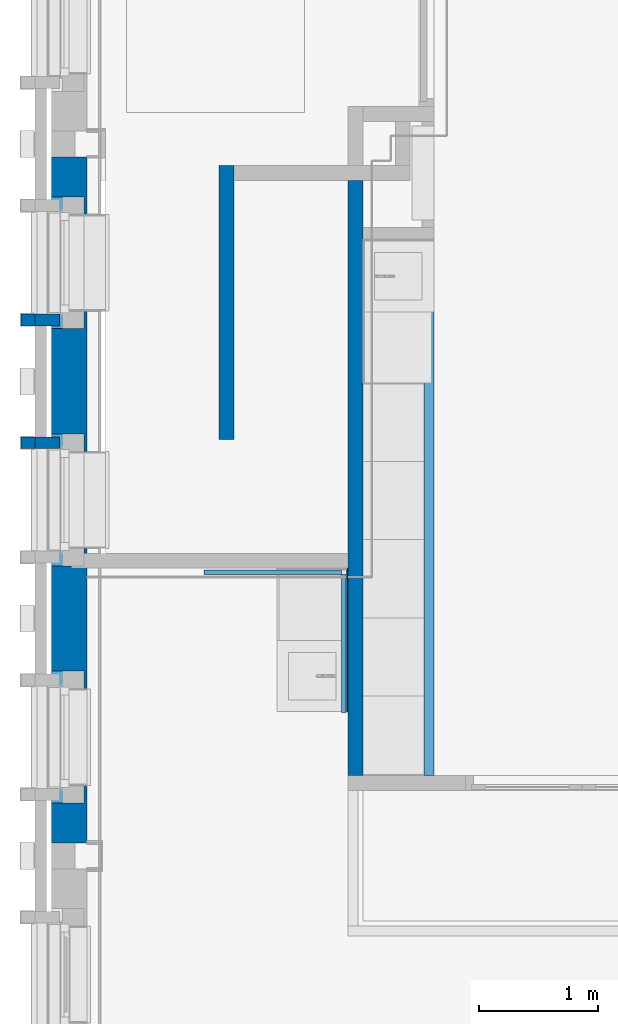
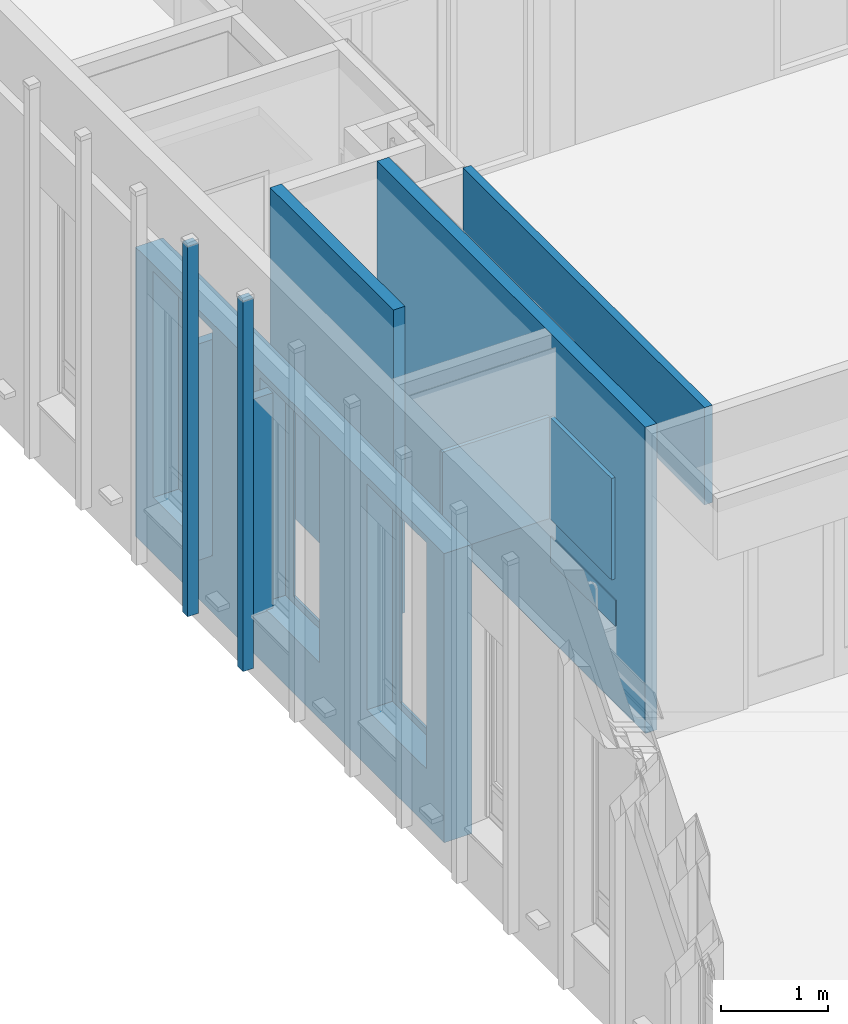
# One storey, part 35 of 118: 11 walls, 11 openings.
"""IFC2X3 building model written with IfcOpenShell, lengths in millimetres."""

from ifc_helpers import new_model, entity, si_unit, converted_unit, derived_unit, direction, frame, frame_2d, origin, place, context, subcontext, project, spatial, rectangle, extrude, faceted_brep, material, layer, layer_set, layer_usage, type_object, element, save


model = new_model("IFC2X3")

# Units and contexts
model_context = context("Model", 3, precision=0.01, world=origin(), true_north=direction((6.123031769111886e-17, 1.0)))
plan_context = context("Plan", 3, precision=0.01, world=origin(), true_north=direction((6.123031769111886e-17, 1.0)))
body_context = subcontext(model_context, "Body", "Model", "MODEL_VIEW")
ifc_project = project(units=[si_unit("LENGTHUNIT", "METRE", prefix="MILLI"), si_unit("AREAUNIT", "SQUARE_METRE"), si_unit("VOLUMEUNIT", "CUBIC_METRE"), converted_unit("PLANEANGLEUNIT", "DEGREE", entity("IfcRatioMeasure", 0.017453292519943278), si_unit("PLANEANGLEUNIT", "RADIAN"), dimensions=[0, 0, 0, 0, 0, 0, 0]), si_unit("MASSUNIT", "GRAM", prefix="KILO"), derived_unit("MASSDENSITYUNIT", [(si_unit("MASSUNIT", "GRAM", prefix="KILO"), 1), (si_unit("LENGTHUNIT", "METRE"), -3)]), derived_unit("IONCONCENTRATIONUNIT", [(si_unit("MASSUNIT", "GRAM", prefix="KILO"), 1), (si_unit("LENGTHUNIT", "METRE"), -3)]), derived_unit("MOMENTOFINERTIAUNIT", [(si_unit("LENGTHUNIT", "METRE"), 4)]), si_unit("TIMEUNIT", "SECOND"), si_unit("FREQUENCYUNIT", "HERTZ"), si_unit("THERMODYNAMICTEMPERATUREUNIT", "DEGREE_CELSIUS"), derived_unit("THERMALTRANSMITTANCEUNIT", [(si_unit("MASSUNIT", "GRAM", prefix="KILO"), 1), (si_unit("THERMODYNAMICTEMPERATUREUNIT", "KELVIN"), -1), (si_unit("TIMEUNIT", "SECOND"), -3)]), derived_unit("THERMALCONDUCTANCEUNIT", [(si_unit("MASSUNIT", "GRAM", prefix="KILO"), 1), (si_unit("THERMODYNAMICTEMPERATUREUNIT", "KELVIN"), -1), (si_unit("TIMEUNIT", "SECOND"), -3), (si_unit("LENGTHUNIT", "METRE"), 1)]), derived_unit("VOLUMETRICFLOWRATEUNIT", [(si_unit("LENGTHUNIT", "METRE"), 3), (si_unit("TIMEUNIT", "SECOND"), -1)]), derived_unit("MASSFLOWRATEUNIT", [(si_unit("MASSUNIT", "GRAM", prefix="KILO"), 1), (si_unit("TIMEUNIT", "SECOND"), -1)]), derived_unit("ROTATIONALFREQUENCYUNIT", [(si_unit("TIMEUNIT", "SECOND"), -1)]), si_unit("ELECTRICCURRENTUNIT", "AMPERE"), si_unit("ELECTRICVOLTAGEUNIT", "VOLT"), si_unit("POWERUNIT", "WATT"), si_unit("FORCEUNIT", "NEWTON", prefix="KILO"), si_unit("ILLUMINANCEUNIT", "LUX"), si_unit("LUMINOUSFLUXUNIT", "LUMEN"), si_unit("LUMINOUSINTENSITYUNIT", "CANDELA"), derived_unit("USERDEFINED", [(si_unit("MASSUNIT", "GRAM", prefix="KILO"), -1), (si_unit("LENGTHUNIT", "METRE"), -2), (si_unit("TIMEUNIT", "SECOND"), 3), (si_unit("LUMINOUSFLUXUNIT", "LUMEN"), 1)]), derived_unit("USERDEFINED", [(si_unit("MASSUNIT", "GRAM", prefix="KILO"), 1), (si_unit("TIMEUNIT", "SECOND"), -3), (si_unit("LENGTHUNIT", "METRE"), 3), (si_unit("ELECTRICCURRENTUNIT", "AMPERE"), -2)]), derived_unit("SOUNDPOWERUNIT", [(si_unit("MASSUNIT", "GRAM", prefix="KILO"), 1), (si_unit("TIMEUNIT", "SECOND"), -3), (si_unit("LENGTHUNIT", "METRE"), 2)]), derived_unit("SOUNDPRESSUREUNIT", [(si_unit("MASSUNIT", "GRAM", prefix="KILO"), 1), (si_unit("LENGTHUNIT", "METRE"), -1), (si_unit("TIMEUNIT", "SECOND"), -2)]), derived_unit("LINEARVELOCITYUNIT", [(si_unit("LENGTHUNIT", "METRE"), 1), (si_unit("TIMEUNIT", "SECOND"), -1)]), si_unit("PRESSUREUNIT", "PASCAL"), derived_unit("USERDEFINED", [(si_unit("MASSUNIT", "GRAM", prefix="KILO"), 1), (si_unit("LENGTHUNIT", "METRE"), -2), (si_unit("TIMEUNIT", "SECOND"), -2)]), derived_unit("LINEARFORCEUNIT", [(si_unit("MASSUNIT", "GRAM", prefix="KILO"), 1), (si_unit("TIMEUNIT", "SECOND"), -2)]), derived_unit("PLANARFORCEUNIT", [(si_unit("MASSUNIT", "GRAM", prefix="KILO"), 1), (si_unit("LENGTHUNIT", "METRE"), -1), (si_unit("TIMEUNIT", "SECOND"), -2)]), derived_unit("SPECIFICHEATCAPACITYUNIT", [(si_unit("THERMODYNAMICTEMPERATUREUNIT", "KELVIN"), -1), (si_unit("LENGTHUNIT", "METRE"), 2), (si_unit("TIMEUNIT", "SECOND"), -2)]), derived_unit("HEATINGVALUEUNIT", [(si_unit("LENGTHUNIT", "METRE"), 2), (si_unit("TIMEUNIT", "SECOND"), -2)]), derived_unit("VAPORPERMEABILITYUNIT", [(si_unit("LENGTHUNIT", "METRE"), -1), (si_unit("TIMEUNIT", "SECOND"), 1)]), derived_unit("DYNAMICVISCOSITYUNIT", [(si_unit("MASSUNIT", "GRAM", prefix="KILO"), 1), (si_unit("TIMEUNIT", "SECOND"), -1), (si_unit("LENGTHUNIT", "METRE"), -1)]), derived_unit("THERMALEXPANSIONCOEFFICIENTUNIT", [(si_unit("THERMODYNAMICTEMPERATUREUNIT", "KELVIN"), -1)]), derived_unit("MODULUSOFELASTICITYUNIT", [(si_unit("MASSUNIT", "GRAM", prefix="KILO"), 1), (si_unit("LENGTHUNIT", "METRE"), -1), (si_unit("TIMEUNIT", "SECOND"), -2)]), derived_unit("ISOTHERMALMOISTURECAPACITYUNIT", [(si_unit("LENGTHUNIT", "METRE"), 3), (si_unit("MASSUNIT", "GRAM", prefix="KILO"), -1)]), derived_unit("MOISTUREDIFFUSIVITYUNIT", [(si_unit("TIMEUNIT", "SECOND"), -1), (si_unit("LENGTHUNIT", "METRE"), 2)])], contexts=[model_context, plan_context])

# Site, building, storey
site_placement = place(None, origin())
site = spatial("IfcSite", under=ifc_project, at=site_placement, Name="Locatie", CompositionType="ELEMENT")
building_placement = place(site_placement, origin())
building = spatial("IfcBuilding", under=site, at=building_placement, Name="Bouwwerk", CompositionType="ELEMENT")
storey_placement = place(building_placement, frame((0.0, 0.0, 7800.0)))
storey = spatial("IfcBuildingStorey", under=building, at=storey_placement, Name="02 tweede verdieping", CompositionType="ELEMENT", Elevation=7800.000000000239)

# Wall, openings
ifc_material_1 = material(Name="n7_isolatie_glaswol")
ifc_layer_1 = layer(ifc_material_1, 30.0)
ifc_layer_2 = layer(ifc_material_1, 245.0)
ifc_material_2 = material(Name="i4_multiplex")
ifc_layer_3 = layer(ifc_material_2, 12.0)
ifc_material_3 = material(Name="f7_gipsvezel")
ifc_layer_4 = layer(ifc_material_3, 13.000000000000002)
ifc_layer_set_1 = layer_set([ifc_layer_1, ifc_layer_2, ifc_layer_3, ifc_layer_4], Name="Basic Wall:NLRS_22_WA_HSB bispouw 30-245-12-13 glaswol_gen_ISR")
ifc_layer_usage_1 = layer_usage(ifc_layer_set_1, "AXIS2", "NEGATIVE", 150.0)
wall_type_1 = type_object("IfcWallType", Name="Basic Wall:NLRS_22_WA_HSB bispouw 30-245-12-13 glaswol_gen_ISR", PredefinedType="STANDARD", material=ifc_layer_set_1)
wall_1_placement = place(storey_placement, frame((9850.0, 17309.244513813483, -30.0), z_axis=(0.0, 0.0, 1.0), x_axis=(0.0, 1.0, 0.0)))
wall_1 = element("IfcWallStandardCase", 1, at=wall_1_placement, inside=storey, type_object=wall_type_1, material=ifc_layer_usage_1, Name="Basic Wall:NLRS_22_WA_HSB bispouw 30-245-12-13 glaswol_gen_ISR", ObjectType="Basic Wall:NLRS_22_WA_HSB bispouw 30-245-12-13 glaswol_gen_ISR", context=body_context, shape_type="SweptSolid", body=[
    extrude(rectangle(XDim=5780.755486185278, YDim=300.0000000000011, at=frame_2d((2890.377743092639, 0.0), x_axis=(-1.0, 0.0))), origin(), (0.0, 0.0, 1.0), 3305.0000000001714),
])
opening_1_placement = place(wall_1_placement, frame((-5665.244513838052, 290.0, 633.0)))
element("IfcOpeningElement", 2, at=opening_1_placement, cuts=wall_1, Name="Basic Wall:NLRS_22_WA_HSB bispouw 30-245-12-13 glaswol_gen_ISR", ObjectType="Opening", context=body_context, shape_type="Brep", body=[
    faceted_brep([(1088.0, -100.0, 2472.0), (1009.0, -100.0, 2472.0), (1009.0, -100.0, 42.0), (103.0, -100.0, 42.0), (103.0, -100.0, 2472.0), (24.0, -100.0, 2472.0), (24.0, -100.0, 0.0), (1088.0, -100.0, 0.0), (24.0, 0.0, 2472.0), (1088.0, 0.0, 2472.0), (1088.0, 0.0, 0.0), (24.0, 0.0, 0.0), (0.0, -415.0, 2594.0), (0.0, -415.0, 11.0), (1112.0, -415.0, 11.0), (1112.0, -415.0, 2594.0), (148.0, -415.0, 2443.0), (964.0, -415.0, 2443.0), (964.0, -415.0, 87.0), (148.0, -415.0, 87.0), (0.0, -140.0, 2594.0), (1112.0, -140.0, 2594.0), (1112.0, -140.0, 11.0), (0.0, -140.0, 11.0), (103.0, -140.0, 42.0), (1009.0, -140.0, 42.0), (1009.0, -140.0, 2508.0), (103.0, -140.0, 2508.0), (1009.0, -100.0, 2508.0), (103.0, -100.0, 2508.0), (148.0, -615.0, 2443.0), (148.0, -615.0, 87.0), (964.0, -615.0, 87.0), (964.0, -615.0, 2443.0)], [[[0, 1, 2, 3, 4, 5, 6, 7]], [[8, 9, 10, 11]], [[5, 8, 11, 6]], [[6, 11, 10, 7]], [[7, 10, 9, 0]], [[8, 5, 4, 1, 0, 9]], [[12, 13, 14, 15], [16, 17, 18, 19]], [[20, 21, 22, 23], [24, 25, 26, 27]], [[12, 20, 23, 13]], [[13, 23, 22, 14]], [[14, 22, 21, 15]], [[15, 21, 20, 12]], [[28, 1, 4, 29]], [[24, 27, 29, 4, 3]], [[3, 2, 25, 24]], [[2, 1, 28, 26, 25]], [[29, 27, 26, 28]], [[30, 31, 32, 33]], [[30, 16, 19, 31]], [[31, 19, 18, 32]], [[32, 18, 17, 33]], [[33, 17, 16, 30]]]),
])
opening_2_placement = place(wall_1_placement, frame((-3665.2445138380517, 290.0, 633.0)))
element("IfcOpeningElement", 3, at=opening_2_placement, cuts=wall_1, Name="Basic Wall:NLRS_22_WA_HSB bispouw 30-245-12-13 glaswol_gen_ISR", ObjectType="Opening", context=body_context, shape_type="Brep", body=[
    faceted_brep([(1088.0, -100.0, 2472.0), (1009.0, -100.0, 2472.0), (1009.0, -100.0, 42.0), (103.0, -100.0, 42.0), (103.0, -100.0, 2472.0), (24.0, -100.0, 2472.0), (24.0, -100.0, 0.0), (1088.0, -100.0, 0.0), (24.0, 0.0, 2472.0), (1088.0, 0.0, 2472.0), (1088.0, 0.0, 0.0), (24.0, 0.0, 0.0), (0.0, -415.0, 2594.0), (0.0, -415.0, 11.0), (1112.0, -415.0, 11.0), (1112.0, -415.0, 2594.0), (148.0, -415.0, 2443.0), (964.0, -415.0, 2443.0), (964.0, -415.0, 87.0), (148.0, -415.0, 87.0), (0.0, -140.0, 2594.0), (1112.0, -140.0, 2594.0), (1112.0, -140.0, 11.0), (0.0, -140.0, 11.0), (103.0, -140.0, 42.0), (1009.0, -140.0, 42.0), (1009.0, -140.0, 2508.0), (103.0, -140.0, 2508.0), (1009.0, -100.0, 2508.0), (103.0, -100.0, 2508.0), (148.0, -615.0, 2443.0), (148.0, -615.0, 87.0), (964.0, -615.0, 87.0), (964.0, -615.0, 2443.0)], [[[0, 1, 2, 3, 4, 5, 6, 7]], [[8, 9, 10, 11]], [[5, 8, 11, 6]], [[6, 11, 10, 7]], [[7, 10, 9, 0]], [[8, 5, 4, 1, 0, 9]], [[12, 13, 14, 15], [16, 17, 18, 19]], [[20, 21, 22, 23], [24, 25, 26, 27]], [[12, 20, 23, 13]], [[13, 23, 22, 14]], [[14, 22, 21, 15]], [[15, 21, 20, 12]], [[28, 1, 4, 29]], [[24, 27, 29, 4, 3]], [[3, 2, 25, 24]], [[2, 1, 28, 26, 25]], [[29, 27, 26, 28]], [[30, 31, 32, 33]], [[30, 16, 19, 31]], [[31, 19, 18, 32]], [[32, 18, 17, 33]], [[33, 17, 16, 30]]]),
])
opening_3_placement = place(wall_1_placement, frame((-1665.2445138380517, 290.0, 633.0)))
element("IfcOpeningElement", 4, at=opening_3_placement, cuts=wall_1, Name="Basic Wall:NLRS_22_WA_HSB bispouw 30-245-12-13 glaswol_gen_ISR", ObjectType="Opening", context=body_context, shape_type="Brep", body=[
    faceted_brep([(1088.0, -100.0, 2472.0), (1009.0, -100.0, 2472.0), (1009.0, -100.0, 42.0), (103.0, -100.0, 42.0), (103.0, -100.0, 2472.0), (24.0, -100.0, 2472.0), (24.0, -100.0, 0.0), (1088.0, -100.0, 0.0), (24.0, 0.0, 2472.0), (1088.0, 0.0, 2472.0), (1088.0, 0.0, 0.0), (24.0, 0.0, 0.0), (0.0, -415.0, 2594.0), (0.0, -415.0, 11.0), (1112.0, -415.0, 11.0), (1112.0, -415.0, 2594.0), (148.0, -415.0, 2443.0), (964.0, -415.0, 2443.0), (964.0, -415.0, 87.0), (148.0, -415.0, 87.0), (0.0, -140.0, 2594.0), (1112.0, -140.0, 2594.0), (1112.0, -140.0, 11.0), (0.0, -140.0, 11.0), (103.0, -140.0, 42.0), (1009.0, -140.0, 42.0), (1009.0, -140.0, 2508.0), (103.0, -140.0, 2508.0), (1009.0, -100.0, 2508.0), (103.0, -100.0, 2508.0), (148.0, -615.0, 2443.0), (148.0, -615.0, 87.0), (964.0, -615.0, 87.0), (964.0, -615.0, 2443.0)], [[[0, 1, 2, 3, 4, 5, 6, 7]], [[8, 9, 10, 11]], [[5, 8, 11, 6]], [[6, 11, 10, 7]], [[7, 10, 9, 0]], [[8, 5, 4, 1, 0, 9]], [[12, 13, 14, 15], [16, 17, 18, 19]], [[20, 21, 22, 23], [24, 25, 26, 27]], [[12, 20, 23, 13]], [[13, 23, 22, 14]], [[14, 22, 21, 15]], [[15, 21, 20, 12]], [[28, 1, 4, 29]], [[24, 27, 29, 4, 3]], [[3, 2, 25, 24]], [[2, 1, 28, 26, 25]], [[29, 27, 26, 28]], [[30, 31, 32, 33]], [[30, 16, 19, 31]], [[31, 19, 18, 32]], [[32, 18, 17, 33]], [[33, 17, 16, 30]]]),
])
opening_4_placement = place(wall_1_placement, frame((6334.75548616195, 290.0, 633.0)))
element("IfcOpeningElement", 5, at=opening_4_placement, cuts=wall_1, Name="Basic Wall:NLRS_22_WA_HSB bispouw 30-245-12-13 glaswol_gen_ISR", ObjectType="Opening", context=body_context, shape_type="Brep", body=[
    faceted_brep([(1088.0, -100.0, 2472.0), (1009.0, -100.0, 2472.0), (1009.0, -100.0, 42.0), (103.0, -100.0, 42.0), (103.0, -100.0, 2472.0), (24.0, -100.0, 2472.0), (24.0, -100.0, 0.0), (1088.0, -100.0, 0.0), (24.0, 0.0, 2472.0), (1088.0, 0.0, 2472.0), (1088.0, 0.0, 0.0), (24.0, 0.0, 0.0), (0.0, -415.0, 2594.0), (0.0, -415.0, 11.0), (1112.0, -415.0, 11.0), (1112.0, -415.0, 2594.0), (148.0, -415.0, 2443.0), (964.0, -415.0, 2443.0), (964.0, -415.0, 87.0), (148.0, -415.0, 87.0), (0.0, -140.0, 2594.0), (1112.0, -140.0, 2594.0), (1112.0, -140.0, 11.0), (0.0, -140.0, 11.0), (103.0, -140.0, 42.0), (1009.0, -140.0, 42.0), (1009.0, -140.0, 2508.0), (103.0, -140.0, 2508.0), (1009.0, -100.0, 2508.0), (103.0, -100.0, 2508.0), (148.0, -615.0, 2443.0), (148.0, -615.0, 87.0), (964.0, -615.0, 87.0), (964.0, -615.0, 2443.0)], [[[0, 1, 2, 3, 4, 5, 6, 7]], [[8, 9, 10, 11]], [[5, 8, 11, 6]], [[6, 11, 10, 7]], [[7, 10, 9, 0]], [[8, 5, 4, 1, 0, 9]], [[12, 13, 14, 15], [16, 17, 18, 19]], [[20, 21, 22, 23], [24, 25, 26, 27]], [[12, 20, 23, 13]], [[13, 23, 22, 14]], [[14, 22, 21, 15]], [[15, 21, 20, 12]], [[28, 1, 4, 29]], [[24, 27, 29, 4, 3]], [[3, 2, 25, 24]], [[2, 1, 28, 26, 25]], [[29, 27, 26, 28]], [[30, 31, 32, 33]], [[30, 16, 19, 31]], [[31, 19, 18, 32]], [[32, 18, 17, 33]], [[33, 17, 16, 30]]]),
])
opening_5_placement = place(wall_1_placement, frame((8334.75548616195, 290.0, 633.0)))
element("IfcOpeningElement", 6, at=opening_5_placement, cuts=wall_1, Name="Basic Wall:NLRS_22_WA_HSB bispouw 30-245-12-13 glaswol_gen_ISR", ObjectType="Opening", context=body_context, shape_type="Brep", body=[
    faceted_brep([(1088.0, -100.0, 2472.0), (1009.0, -100.0, 2472.0), (1009.0, -100.0, 42.0), (103.0, -100.0, 42.0), (103.0, -100.0, 2472.0), (24.0, -100.0, 2472.0), (24.0, -100.0, 0.0), (1088.0, -100.0, 0.0), (24.0, 0.0, 2472.0), (1088.0, 0.0, 2472.0), (1088.0, 0.0, 0.0), (24.0, 0.0, 0.0), (0.0, -415.0, 2594.0), (0.0, -415.0, 11.0), (1112.0, -415.0, 11.0), (1112.0, -415.0, 2594.0), (148.0, -415.0, 2443.0), (964.0, -415.0, 2443.0), (964.0, -415.0, 87.0), (148.0, -415.0, 87.0), (0.0, -140.0, 2594.0), (1112.0, -140.0, 2594.0), (1112.0, -140.0, 11.0), (0.0, -140.0, 11.0), (103.0, -140.0, 42.0), (1009.0, -140.0, 42.0), (1009.0, -140.0, 2508.0), (103.0, -140.0, 2508.0), (1009.0, -100.0, 2508.0), (103.0, -100.0, 2508.0), (148.0, -615.0, 2443.0), (148.0, -615.0, 87.0), (964.0, -615.0, 87.0), (964.0, -615.0, 2443.0)], [[[0, 1, 2, 3, 4, 5, 6, 7]], [[8, 9, 10, 11]], [[5, 8, 11, 6]], [[6, 11, 10, 7]], [[7, 10, 9, 0]], [[8, 5, 4, 1, 0, 9]], [[12, 13, 14, 15], [16, 17, 18, 19]], [[20, 21, 22, 23], [24, 25, 26, 27]], [[12, 20, 23, 13]], [[13, 23, 22, 14]], [[14, 22, 21, 15]], [[15, 21, 20, 12]], [[28, 1, 4, 29]], [[24, 27, 29, 4, 3]], [[3, 2, 25, 24]], [[2, 1, 28, 26, 25]], [[29, 27, 26, 28]], [[30, 31, 32, 33]], [[30, 16, 19, 31]], [[31, 19, 18, 32]], [[32, 18, 17, 33]], [[33, 17, 16, 30]]]),
])
opening_6_placement = place(wall_1_placement, frame((10334.75548616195, 290.0, 633.0)))
element("IfcOpeningElement", 7, at=opening_6_placement, cuts=wall_1, Name="Basic Wall:NLRS_22_WA_HSB bispouw 30-245-12-13 glaswol_gen_ISR", ObjectType="Opening", context=body_context, shape_type="Brep", body=[
    faceted_brep([(1088.0, -100.0, 2472.0), (1009.0, -100.0, 2472.0), (1009.0, -100.0, 42.0), (103.0, -100.0, 42.0), (103.0, -100.0, 2472.0), (24.0, -100.0, 2472.0), (24.0, -100.0, 0.0), (1088.0, -100.0, 0.0), (24.0, 0.0, 2472.0), (1088.0, 0.0, 2472.0), (1088.0, 0.0, 0.0), (24.0, 0.0, 0.0), (0.0, -415.0, 2594.0), (0.0, -415.0, 11.0), (1112.0, -415.0, 11.0), (1112.0, -415.0, 2594.0), (148.0, -415.0, 2443.0), (964.0, -415.0, 2443.0), (964.0, -415.0, 87.0), (148.0, -415.0, 87.0), (0.0, -140.0, 2594.0), (1112.0, -140.0, 2594.0), (1112.0, -140.0, 11.0), (0.0, -140.0, 11.0), (103.0, -140.0, 42.0), (1009.0, -140.0, 42.0), (1009.0, -140.0, 2508.0), (103.0, -140.0, 2508.0), (1009.0, -100.0, 2508.0), (103.0, -100.0, 2508.0), (148.0, -615.0, 2443.0), (148.0, -615.0, 87.0), (964.0, -615.0, 87.0), (964.0, -615.0, 2443.0)], [[[0, 1, 2, 3, 4, 5, 6, 7]], [[8, 9, 10, 11]], [[5, 8, 11, 6]], [[6, 11, 10, 7]], [[7, 10, 9, 0]], [[8, 5, 4, 1, 0, 9]], [[12, 13, 14, 15], [16, 17, 18, 19]], [[20, 21, 22, 23], [24, 25, 26, 27]], [[12, 20, 23, 13]], [[13, 23, 22, 14]], [[14, 22, 21, 15]], [[15, 21, 20, 12]], [[28, 1, 4, 29]], [[24, 27, 29, 4, 3]], [[3, 2, 25, 24]], [[2, 1, 28, 26, 25]], [[29, 27, 26, 28]], [[30, 31, 32, 33]], [[30, 16, 19, 31]], [[31, 19, 18, 32]], [[32, 18, 17, 33]], [[33, 17, 16, 30]]]),
])
opening_7_placement = place(wall_1_placement, frame((12334.75548616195, 290.0, 633.0)))
element("IfcOpeningElement", 8, at=opening_7_placement, cuts=wall_1, Name="Basic Wall:NLRS_22_WA_HSB bispouw 30-245-12-13 glaswol_gen_ISR", ObjectType="Opening", context=body_context, shape_type="Brep", body=[
    faceted_brep([(1088.0, -100.0, 2472.0), (1009.0, -100.0, 2472.0), (1009.0, -100.0, 42.0), (103.0, -100.0, 42.0), (103.0, -100.0, 2472.0), (24.0, -100.0, 2472.0), (24.0, -100.0, 0.0), (1088.0, -100.0, 0.0), (24.0, 0.0, 2472.0), (1088.0, 0.0, 2472.0), (1088.0, 0.0, 0.0), (24.0, 0.0, 0.0), (0.0, -415.0, 2594.0), (0.0, -415.0, 11.0), (1112.0, -415.0, 11.0), (1112.0, -415.0, 2594.0), (148.0, -415.0, 2443.0), (964.0, -415.0, 2443.0), (964.0, -415.0, 87.0), (148.0, -415.0, 87.0), (0.0, -140.0, 2594.0), (1112.0, -140.0, 2594.0), (1112.0, -140.0, 11.0), (0.0, -140.0, 11.0), (103.0, -140.0, 42.0), (1009.0, -140.0, 42.0), (1009.0, -140.0, 2508.0), (103.0, -140.0, 2508.0), (1009.0, -100.0, 2508.0), (103.0, -100.0, 2508.0), (148.0, -615.0, 2443.0), (148.0, -615.0, 87.0), (964.0, -615.0, 87.0), (964.0, -615.0, 2443.0)], [[[0, 1, 2, 3, 4, 5, 6, 7]], [[8, 9, 10, 11]], [[5, 8, 11, 6]], [[6, 11, 10, 7]], [[7, 10, 9, 0]], [[8, 5, 4, 1, 0, 9]], [[12, 13, 14, 15], [16, 17, 18, 19]], [[20, 21, 22, 23], [24, 25, 26, 27]], [[12, 20, 23, 13]], [[13, 23, 22, 14]], [[14, 22, 21, 15]], [[15, 21, 20, 12]], [[28, 1, 4, 29]], [[24, 27, 29, 4, 3]], [[3, 2, 25, 24]], [[2, 1, 28, 26, 25]], [[29, 27, 26, 28]], [[30, 31, 32, 33]], [[30, 16, 19, 31]], [[31, 19, 18, 32]], [[32, 18, 17, 33]], [[33, 17, 16, 30]]]),
])
opening_8_placement = place(wall_1_placement, frame((14334.75548616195, 290.0, 633.0)))
element("IfcOpeningElement", 9, at=opening_8_placement, cuts=wall_1, Name="Basic Wall:NLRS_22_WA_HSB bispouw 30-245-12-13 glaswol_gen_ISR", ObjectType="Opening", context=body_context, shape_type="Brep", body=[
    faceted_brep([(1088.0, -100.0, 2472.0), (1009.0, -100.0, 2472.0), (1009.0, -100.0, 42.0), (103.0, -100.0, 42.0), (103.0, -100.0, 2472.0), (24.0, -100.0, 2472.0), (24.0, -100.0, 0.0), (1088.0, -100.0, 0.0), (24.0, 0.0, 2472.0), (1088.0, 0.0, 2472.0), (1088.0, 0.0, 0.0), (24.0, 0.0, 0.0), (0.0, -415.0, 2594.0), (0.0, -415.0, 11.0), (1112.0, -415.0, 11.0), (1112.0, -415.0, 2594.0), (148.0, -415.0, 2443.0), (964.0, -415.0, 2443.0), (964.0, -415.0, 87.0), (148.0, -415.0, 87.0), (0.0, -140.0, 2594.0), (1112.0, -140.0, 2594.0), (1112.0, -140.0, 11.0), (0.0, -140.0, 11.0), (103.0, -140.0, 42.0), (1009.0, -140.0, 42.0), (1009.0, -140.0, 2508.0), (103.0, -140.0, 2508.0), (1009.0, -100.0, 2508.0), (103.0, -100.0, 2508.0), (148.0, -615.0, 2443.0), (148.0, -615.0, 87.0), (964.0, -615.0, 87.0), (964.0, -615.0, 2443.0)], [[[0, 1, 2, 3, 4, 5, 6, 7]], [[8, 9, 10, 11]], [[5, 8, 11, 6]], [[6, 11, 10, 7]], [[7, 10, 9, 0]], [[8, 5, 4, 1, 0, 9]], [[12, 13, 14, 15], [16, 17, 18, 19]], [[20, 21, 22, 23], [24, 25, 26, 27]], [[12, 20, 23, 13]], [[13, 23, 22, 14]], [[14, 22, 21, 15]], [[15, 21, 20, 12]], [[28, 1, 4, 29]], [[24, 27, 29, 4, 3]], [[3, 2, 25, 24]], [[2, 1, 28, 26, 25]], [[29, 27, 26, 28]], [[30, 31, 32, 33]], [[30, 16, 19, 31]], [[31, 19, 18, 32]], [[32, 18, 17, 33]], [[33, 17, 16, 30]]]),
])
opening_9_placement = place(wall_1_placement, frame((4334.755486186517, 290.0, 633.0), z_axis=(0.0, 0.0, 1.0), x_axis=(0.0, -1.0, 0.0)))
element("IfcOpeningElement", 10, at=opening_9_placement, cuts=wall_1, Name="Basic Wall:NLRS_22_WA_HSB bispouw 30-245-12-13 glaswol_gen_ISR", ObjectType="Opening", context=body_context, shape_type="Brep", body=[
    faceted_brep([(100.0, 24.0, 0.0), (0.0, 24.0, 0.0), (0.0, 1088.0, 0.0), (100.0, 1088.0, 0.0), (415.0, 0.0, 11.0), (140.0, 0.0, 11.0), (140.0, 1112.0, 11.0), (415.0, 1112.0, 11.0), (100.0, 103.0, 42.0), (100.0, 1009.0, 42.0), (140.0, 1009.0, 42.0), (140.0, 103.0, 42.0), (100.0, 1088.0, 2472.0), (100.0, 1009.0, 2472.0), (100.0, 103.0, 2472.0), (100.0, 24.0, 2472.0), (0.0, 24.0, 2472.0), (0.0, 1088.0, 2472.0), (415.0, 0.0, 2594.0), (415.0, 1112.0, 2594.0), (415.0, 148.0, 2443.0), (415.0, 964.0, 2443.0), (415.0, 964.0, 87.0), (415.0, 148.0, 87.0), (140.0, 0.0, 2594.0), (140.0, 1112.0, 2594.0), (140.0, 1009.0, 2508.0), (140.0, 103.0, 2508.0), (100.0, 1009.0, 2508.0), (100.0, 103.0, 2508.0), (615.0, 148.0, 2443.0), (615.0, 148.0, 87.0), (615.0, 964.0, 87.0), (615.0, 964.0, 2443.0)], [[[0, 1, 2, 3]], [[4, 5, 6, 7]], [[8, 9, 10, 11]], [[12, 13, 9, 8, 14, 15, 0, 3]], [[16, 17, 2, 1]], [[15, 16, 1, 0]], [[3, 2, 17, 12]], [[16, 15, 14, 13, 12, 17]], [[18, 4, 7, 19], [20, 21, 22, 23]], [[24, 25, 6, 5], [11, 10, 26, 27]], [[18, 24, 5, 4]], [[7, 6, 25, 19]], [[19, 25, 24, 18]], [[28, 13, 14, 29]], [[11, 27, 29, 14, 8]], [[9, 13, 28, 26, 10]], [[29, 27, 26, 28]], [[30, 31, 32, 33]], [[30, 20, 23, 31]], [[31, 23, 22, 32]], [[32, 22, 21, 33]], [[33, 21, 20, 30]]]),
])
opening_10_placement = place(wall_1_placement, frame((2334.7554861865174, 290.0, 633.0), z_axis=(0.0, 0.0, 1.0), x_axis=(0.0, -1.0, 0.0)))
element("IfcOpeningElement", 11, at=opening_10_placement, cuts=wall_1, Name="Basic Wall:NLRS_22_WA_HSB bispouw 30-245-12-13 glaswol_gen_ISR", ObjectType="Opening", context=body_context, shape_type="Brep", body=[
    faceted_brep([(100.0, 24.0, 0.0), (0.0, 24.0, 0.0), (0.0, 1088.0, 0.0), (100.0, 1088.0, 0.0), (415.0, 0.0, 11.0), (140.0, 0.0, 11.0), (140.0, 1112.0, 11.0), (415.0, 1112.0, 11.0), (100.0, 103.0, 42.0), (100.0, 1009.0, 42.0), (140.0, 1009.0, 42.0), (140.0, 103.0, 42.0), (100.0, 1088.0, 2472.0), (100.0, 1009.0, 2472.0), (100.0, 103.0, 2472.0), (100.0, 24.0, 2472.0), (0.0, 24.0, 2472.0), (0.0, 1088.0, 2472.0), (415.0, 0.0, 2594.0), (415.0, 1112.0, 2594.0), (415.0, 148.0, 2443.0), (415.0, 964.0, 2443.0), (415.0, 964.0, 87.0), (415.0, 148.0, 87.0), (140.0, 0.0, 2594.0), (140.0, 1112.0, 2594.0), (140.0, 1009.0, 2508.0), (140.0, 103.0, 2508.0), (100.0, 1009.0, 2508.0), (100.0, 103.0, 2508.0), (615.0, 148.0, 2443.0), (615.0, 148.0, 87.0), (615.0, 964.0, 87.0), (615.0, 964.0, 2443.0)], [[[0, 1, 2, 3]], [[4, 5, 6, 7]], [[8, 9, 10, 11]], [[12, 13, 9, 8, 14, 15, 0, 3]], [[16, 17, 2, 1]], [[15, 16, 1, 0]], [[3, 2, 17, 12]], [[16, 15, 14, 13, 12, 17]], [[18, 4, 7, 19], [20, 21, 22, 23]], [[24, 25, 6, 5], [11, 10, 26, 27]], [[18, 24, 5, 4]], [[7, 6, 25, 19]], [[19, 25, 24, 18]], [[28, 13, 14, 29]], [[11, 27, 29, 14, 8]], [[9, 13, 28, 26, 10]], [[29, 27, 26, 28]], [[30, 31, 32, 33]], [[30, 20, 23, 31]], [[31, 23, 22, 32]], [[32, 22, 21, 33]], [[33, 21, 20, 30]]]),
])
opening_11_placement = place(wall_1_placement, frame((334.7554861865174, 290.0, 633.0), z_axis=(0.0, 0.0, 1.0), x_axis=(0.0, -1.0, 0.0)))
element("IfcOpeningElement", 12, at=opening_11_placement, cuts=wall_1, Name="Basic Wall:NLRS_22_WA_HSB bispouw 30-245-12-13 glaswol_gen_ISR", ObjectType="Opening", context=body_context, shape_type="Brep", body=[
    faceted_brep([(100.0, 1088.0, 2472.0), (100.0, 1009.0, 2472.0), (100.0, 1009.0, 42.0), (100.0, 103.0, 42.0), (100.0, 103.0, 2472.0), (100.0, 24.0, 2472.0), (100.0, 24.0, 0.0), (100.0, 1088.0, 0.0), (0.0, 24.0, 2472.0), (0.0, 1088.0, 2472.0), (0.0, 1088.0, 0.0), (0.0, 24.0, 0.0), (415.0, 0.0, 2594.0), (415.0, 0.0, 11.0), (415.0, 1112.0, 11.0), (415.0, 1112.0, 2594.0), (415.0, 148.0, 2443.0), (415.0, 964.0, 2443.0), (415.0, 964.0, 87.0), (415.0, 148.0, 87.0), (140.0, 0.0, 2594.0), (140.0, 1112.0, 2594.0), (140.0, 1112.0, 11.0), (140.0, 0.0, 11.0), (140.0, 103.0, 42.0), (140.0, 1009.0, 42.0), (140.0, 1009.0, 2508.0), (140.0, 103.0, 2508.0), (100.0, 1009.0, 2508.0), (100.0, 103.0, 2508.0), (615.0, 148.0, 2443.0), (615.0, 148.0, 87.0), (615.0, 964.0, 87.0), (615.0, 964.0, 2443.0)], [[[0, 1, 2, 3, 4, 5, 6, 7]], [[8, 9, 10, 11]], [[5, 8, 11, 6]], [[6, 11, 10, 7]], [[7, 10, 9, 0]], [[8, 5, 4, 1, 0, 9]], [[12, 13, 14, 15], [16, 17, 18, 19]], [[20, 21, 22, 23], [24, 25, 26, 27]], [[12, 20, 23, 13]], [[13, 23, 22, 14]], [[14, 22, 21, 15]], [[15, 21, 20, 12]], [[28, 1, 4, 29]], [[24, 27, 29, 4, 3]], [[3, 2, 25, 24]], [[2, 1, 28, 26, 25]], [[29, 27, 26, 28]], [[30, 31, 32, 33]], [[30, 16, 19, 31]], [[31, 19, 18, 32]], [[32, 18, 17, 33]], [[33, 17, 16, 30]]]),
])

# Walls
ifc_material_4 = material(Name="g2_metselwerk_geel licht")
ifc_layer_5 = layer(ifc_material_4, 100.0)
ifc_layer_set_2 = layer_set([ifc_layer_5], Name="Basic Wall:21_WA_metselwerk_licht_100_gen_bdg")
ifc_layer_usage_2 = layer_usage(ifc_layer_set_2, "AXIS2", "NEGATIVE", 50.0)
wall_type_2 = type_object("IfcWallType", Name="Basic Wall:21_WA_metselwerk_licht_100_gen_bdg", PredefinedType="STANDARD", material=ifc_layer_set_2)
wall_2_placement = place(storey_placement, frame((9770.0, 20682.0, 603.0), z_axis=(0.0, 0.0, 1.0), x_axis=(-1.0, 0.0, 0.0)))
element("IfcWallStandardCase", 13, at=wall_2_placement, inside=storey, type_object=wall_type_2, material=ifc_layer_usage_2, Name="Basic Wall:21_WA_metselwerk_licht_100_gen_bdg", ObjectType="Basic Wall:21_WA_metselwerk_licht_100_gen_bdg", context=body_context, shape_type="SweptSolid", body=[
    extrude(rectangle(XDim=210.00000000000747, YDim=100.00000000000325, at=frame_2d((105.00000000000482, -4.654054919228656e-13), x_axis=(-1.0, 0.0))), origin(), (0.0, 0.0, 1.0), 2471.999999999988),
])
wall_3_placement = place(storey_placement, frame((9560.0, 20682.0, 0.0), z_axis=(0.0, 0.0, 1.0), x_axis=(-1.0, 0.0, 0.0)))
element("IfcWallStandardCase", 14, at=wall_3_placement, inside=storey, type_object=wall_type_2, material=ifc_layer_usage_2, Name="Basic Wall:21_WA_metselwerk_licht_100_gen_bdg", ObjectType="Basic Wall:21_WA_metselwerk_licht_100_gen_bdg", context=body_context, shape_type="SweptSolid", body=[
    extrude(rectangle(XDim=114.99999999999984, YDim=100.00000000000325, at=frame_2d((57.49999999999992, 1.2434497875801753e-12), x_axis=(-1.0, 0.0))), origin(), (0.0, 0.0, 1.0), 4232.000000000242),
])
ifc_layer_usage_3 = layer_usage(ifc_layer_set_2, "AXIS2", "POSITIVE", -50.0)
wall_4_placement = place(storey_placement, frame((9770.0, 21718.0, 603.0), z_axis=(0.0, 0.0, 1.0), x_axis=(-1.0, 0.0, 0.0)))
element("IfcWallStandardCase", 15, at=wall_4_placement, inside=storey, type_object=wall_type_2, material=ifc_layer_usage_3, Name="Basic Wall:21_WA_metselwerk_licht_100_gen_bdg", ObjectType="Basic Wall:21_WA_metselwerk_licht_100_gen_bdg", context=body_context, shape_type="SweptSolid", body=[
    extrude(rectangle(XDim=210.00000000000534, YDim=100.00000000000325, at=frame_2d((105.00000000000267, 1.0196288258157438e-12), x_axis=(-1.0, 0.0))), origin(), (0.0, 0.0, 1.0), 2471.999999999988),
])
wall_5_placement = place(storey_placement, frame((9560.0, 21718.0, 0.0), z_axis=(0.0, 0.0, 1.0), x_axis=(-1.0, 0.0, 0.0)))
element("IfcWallStandardCase", 16, at=wall_5_placement, inside=storey, type_object=wall_type_2, material=ifc_layer_usage_3, Name="Basic Wall:21_WA_metselwerk_licht_100_gen_bdg", ObjectType="Basic Wall:21_WA_metselwerk_licht_100_gen_bdg", context=body_context, shape_type="SweptSolid", body=[
    extrude(rectangle(XDim=114.99999999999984, YDim=100.00000000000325, at=frame_2d((57.49999999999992, 1.2434497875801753e-12), x_axis=(-1.0, 0.0))), origin(), (0.0, 0.0, 1.0), 4231.99999999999),
])
ifc_layer_6 = layer(ifc_material_3, 12.5)
ifc_material_5 = material(Name="f7_gips")
ifc_layer_7 = layer(ifc_material_5, 12.5)
ifc_layer_8 = layer(ifc_material_1, 75.0)
ifc_layer_9 = layer(ifc_material_5, 12.5)
ifc_layer_10 = layer(ifc_material_3, 12.5)
ifc_layer_set_3 = layer_set([ifc_layer_6, ifc_layer_7, ifc_layer_8, ifc_layer_9, ifc_layer_10], Name="Basic Wall: 25-75-25 _gen_bdg")
ifc_layer_usage_4 = layer_usage(ifc_layer_set_3, "AXIS2", "NEGATIVE", 62.50000000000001)
wall_type_3 = type_object("IfcWallType", Name="Basic Wall: 25-75-25 _gen_bdg", PredefinedType="STANDARD", material=ifc_layer_set_3)
wall_6_placement = place(storey_placement, frame((12262.500000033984, 17875.0, 0.0), z_axis=(0.0, 0.0, 1.0), x_axis=(0.0, 1.0, 0.0)))
element("IfcWallStandardCase", 17, at=wall_6_placement, inside=storey, type_object=wall_type_3, material=ifc_layer_usage_4, Name="Basic Wall: 25-75-25 _gen_bdg", ObjectType="Basic Wall: 25-75-25 _gen_bdg", context=body_context, shape_type="SweptSolid", body=[
    extrude(rectangle(XDim=5020.000000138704, YDim=125.0000000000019, at=frame_2d((2510.000000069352, -7.105427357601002e-15), x_axis=(-1.0, 0.0))), origin(), (0.0, 0.0, 1.0), 3500.0000000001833),
])
wall_7_placement = place(storey_placement, frame((11177.499999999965, 23020.0, 0.0), z_axis=(0.0, 0.0, 1.0), x_axis=(0.0, -1.0, 0.0)))
element("IfcWallStandardCase", 18, at=wall_7_placement, inside=storey, type_object=wall_type_3, material=ifc_layer_usage_4, Name="Basic Wall: 25-75-25 _gen_bdg", ObjectType="Basic Wall: 25-75-25 _gen_bdg", context=body_context, shape_type="SweptSolid", body=[
    extrude(rectangle(XDim=2310.0000000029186, YDim=125.0000000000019, at=frame_2d((1155.0000000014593, -1.4921397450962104e-13), x_axis=(-1.0, 0.0))), origin(), (0.0, 0.0, 1.0), 3500.0000000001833),
])
ifc_layer_11 = layer(ifc_material_3, 13.000000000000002)
ifc_material_6 = material(Name="ISR_Luchtspouw")
ifc_layer_12 = layer(ifc_material_6, 71.0)
ifc_layer_set_4 = layer_set([ifc_layer_11, ifc_layer_12], Name="Basic Wall:22_WA_koof_83 12-71")
ifc_layer_usage_5 = layer_usage(ifc_layer_set_4, "AXIS2", "NEGATIVE", 41.99999999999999)
wall_type_4 = type_object("IfcWallType", Name="Basic Wall:22_WA_koof_83 12-71", PredefinedType="STANDARD", material=ifc_layer_set_4)
wall_8_placement = place(storey_placement, frame((12883.0, 22396.0, 2387.0), z_axis=(0.0, 0.0, 1.0), x_axis=(0.0, -1.0, 0.0)))
element("IfcWallStandardCase", 19, at=wall_8_placement, inside=storey, type_object=wall_type_4, material=ifc_layer_usage_5, Name="Basic Wall:22_WA_koof_83 12-71", ObjectType="Basic Wall:22_WA_koof_83 12-71", context=body_context, shape_type="SweptSolid", body=[
    extrude(rectangle(XDim=4521.000000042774, YDim=83.99999999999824, at=frame_2d((2260.500000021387, 4.192202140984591e-13), x_axis=(-1.0, 0.0))), origin(), (0.0, 0.0, 1.0), 1113.000000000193),
])
ifc_layer_13 = layer(ifc_material_5, 12.0)
ifc_layer_set_5 = layer_set([ifc_layer_13], Name="Basic Wall:NLRS_41_WA_beplating 12_gen_ISR")
ifc_layer_usage_6 = layer_usage(ifc_layer_set_5, "AXIS2", "NEGATIVE", 6.0)
wall_type_5 = type_object("IfcWallType", Name="Basic Wall:NLRS_41_WA_beplating 12_gen_ISR", PredefinedType="STANDARD", material=ifc_layer_set_5)
wall_9_placement = place(storey_placement, frame((12194.0, 18415.0, 900.0), z_axis=(0.0, 0.0, 1.0), x_axis=(0.0, 1.0, 0.0)))
element("IfcWallStandardCase", 20, at=wall_9_placement, inside=storey, type_object=wall_type_5, material=ifc_layer_usage_6, Name="Basic Wall:NLRS_41_WA_beplating 12_gen_ISR", ObjectType="Basic Wall:NLRS_41_WA_beplating 12_gen_ISR", context=body_context, shape_type="SweptSolid", body=[
    extrude(rectangle(XDim=1210.0000096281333, YDim=12.000000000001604, at=frame_2d((605.0000048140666, 0.0), x_axis=(-1.0, 0.0))), origin(), (0.0, 0.0, 1.0), 300.0000000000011),
])
ifc_material_7 = material(Name="f7_binnenwandafwerking")
ifc_layer_14 = layer(ifc_material_7, 1.0)
ifc_layer_15 = layer(ifc_material_6, 39.0)
ifc_layer_set_6 = layer_set([ifc_layer_14, ifc_layer_15], Name="Basic Wall:NLRS_41_WA_akoestische panelen 40_gen_ISR")
ifc_layer_usage_7 = layer_usage(ifc_layer_set_6, "AXIS2", "POSITIVE", -20.0)
wall_type_6 = type_object("IfcWallType", Name="Basic Wall:NLRS_41_WA_akoestische panelen 40_gen_ISR", PredefinedType="STANDARD", material=ifc_layer_set_6)
wall_10_placement = place(storey_placement, frame((12165.0, 19570.0, 1450.0), z_axis=(0.0, 0.0, 1.0), x_axis=(0.0, -1.0, 0.0)))
element("IfcWallStandardCase", 21, at=wall_10_placement, inside=storey, type_object=wall_type_6, material=ifc_layer_usage_7, Name="Basic Wall:NLRS_41_WA_akoestische panelen 40_gen_ISR", ObjectType="Basic Wall:NLRS_41_WA_akoestische panelen 40_gen_ISR", context=body_context, shape_type="SweptSolid", body=[
    extrude(rectangle(XDim=1160.0000000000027, YDim=39.999999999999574, at=frame_2d((580.0000000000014, -1.3500311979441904e-13), x_axis=(-1.0, 0.0))), origin(), (0.0, 0.0, 1.0), 1160.0000000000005),
])
wall_11_placement = place(storey_placement, frame((10985.0, 19590.0, 1450.0)))
element("IfcWallStandardCase", 22, at=wall_11_placement, inside=storey, type_object=wall_type_6, material=ifc_layer_usage_7, Name="Basic Wall:NLRS_41_WA_akoestische panelen 40_gen_ISR", ObjectType="Basic Wall:NLRS_41_WA_akoestische panelen 40_gen_ISR", context=body_context, shape_type="SweptSolid", body=[
    extrude(rectangle(XDim=1160.0000000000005, YDim=39.999999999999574, at=frame_2d((580.0000000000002, -1.8385293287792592e-12), x_axis=(-1.0, 0.0))), origin(), (0.0, 0.0, 1.0), 1160.0000000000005),
])

save(model, "model.ifc")
